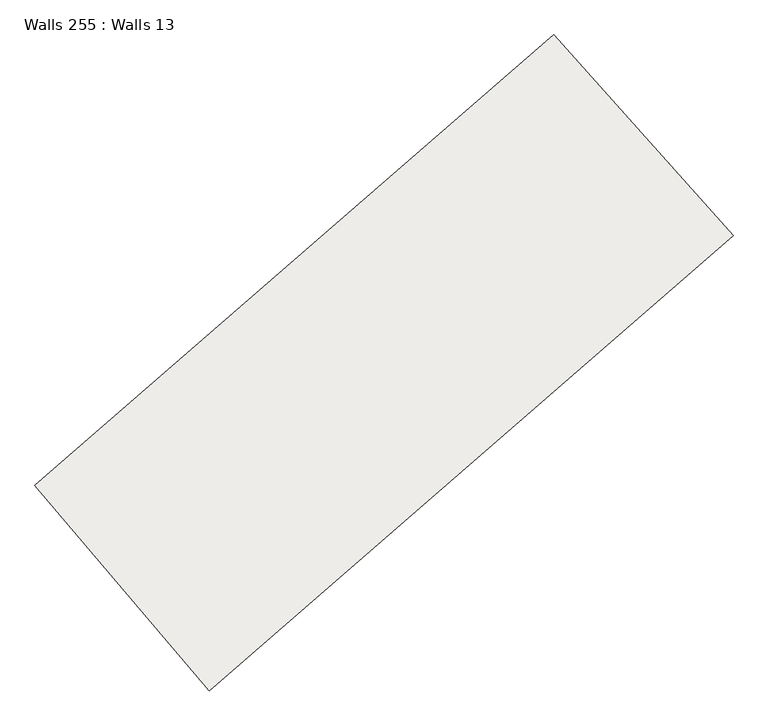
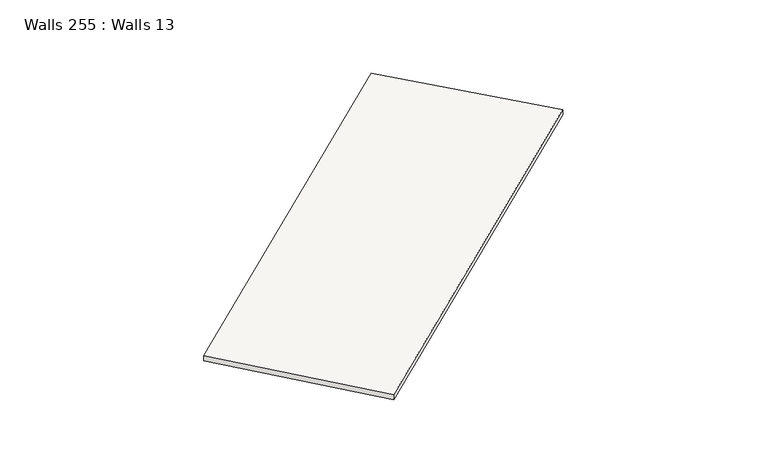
"""IFC4 building model written with IfcOpenShell, lengths in millimetres: slab geometry, Walls 255 : Walls 13."""

from ifc_helpers import new_model, si_unit, frame, origin, place, context, project, spatial, source, transform, mapped, element, save
from ifc_brep_helpers import plane_surface, spline_curve, spline_surface, advanced_brep


def walls_255_walls_13_3a6cb62a(model_context):
    return source(origin(), model_context, "Body", "AdvancedBrep", [
        advanced_brep(
        [(-252953.6049194, -410667.4858834, 634450.0), (-252953.6049194, -410667.4858834, 634550.0), (-250693.5123539, -413204.9610815, 634550.0), (-250693.5123539, -413204.9610815, 634450.0), (-259504.3942797, -416359.2288655, 634380.0), (-257305.1555162, -418951.9000099, 634380.0), (-257305.1555162, -418951.9000099, 634480.0), (-259504.3942797, -416359.2288655, 634480.0)],
        [
            (0, 1),
            (1, 2),
            (2, 3),
            (3, 0),
            (4, 5),
            (5, 6),
            (6, 7),
            (7, 4),
            (6, 2, spline_curve(3, [(-257305.1555162, -418951.9000099, 634480.0), (-255078.234805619, -417062.977568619, 634503.333333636), (-252874.139220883, -415147.144800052, 634526.666666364), (-250693.5123539, -413204.9610815, 634550.0)], [4, 4], [0.0, 28.60751878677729])),
            (1, 7, spline_curve(3, [(-252953.6049194, -410667.4858834, 634550.0), (-255114.175728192, -412591.031370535, 634526.666666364), (-257297.984811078, -414488.463614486, 634503.333333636), (-259504.3942797, -416359.2288655, 634480.0)], [4, 4], [0.0, 28.60751878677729])),
            (4, 0, spline_curve(3, [(-259504.3942797, -416359.2288655, 634380.0), (-257297.984811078, -414488.463614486, 634403.333333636), (-255114.175728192, -412591.031370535, 634426.666666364), (-252953.6049194, -410667.4858834, 634450.0)], [4, 4], [0.0, 28.60751878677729])),
            (3, 5, spline_curve(3, [(-250693.5123539, -413204.9610815, 634450.0), (-252874.139220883, -415147.144800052, 634426.666666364), (-255078.234805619, -417062.977568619, 634403.333333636), (-257305.1555162, -418951.9000099, 634380.0)], [4, 4], [0.0, 28.60751878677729])),
        ],
        [
            plane_surface(frame((-251823.5586367, -411936.2234824, 634500.0), z_axis=(0.7467427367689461, 0.6651129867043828, 0.0), x_axis=(0.0, 0.0, -1.0))),
            plane_surface(frame((-258404.774898, -417655.5644377, 634430.0), z_axis=(-0.7625966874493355, -0.646874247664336, 0.0), x_axis=(0.0, 0.0, 1.0))),
            spline_surface(3, 3, [[(-259504.3942797, -416359.2288655, 634480.0), (-257297.984811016, -414488.463614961, 634503.333333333), (-255114.175728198, -412591.031370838, 634526.666666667), (-252953.6049194, -410667.4858834, 634550.0)], [(-258771.314691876, -417223.45258028, 634480.0), (-256558.068142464, -415346.634932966, 634503.333333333), (-254367.496892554, -413443.06918063, 634526.666666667), (-252200.240730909, -411513.310949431, 634550.0)], [(-258038.235104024, -418087.67629512, 634480.0), (-255818.151473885, -416204.806251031, 634503.333333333), (-253620.818056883, -414295.106990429, 634526.666666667), (-251446.876542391, -412359.136015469, 634550.0)], [(-257305.1555162, -418951.9000099, 634480.0), (-255078.234805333, -417062.977569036, 634503.333333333), (-252874.13922124, -415147.144800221, 634526.666666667), (-250693.5123539, -413204.9610815, 634550.0)]], [4, 4], [4, 4], [0.0, 11.151331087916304], [0.0, 28.60751878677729]),
            spline_surface(3, 3, [[(-257305.1555162, -418951.9000099, 634380.0), (-255078.234805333, -417062.977569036, 634403.333333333), (-252874.13922124, -415147.144800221, 634426.666666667), (-250693.5123539, -413204.9610815, 634450.0)], [(-258038.235104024, -418087.67629512, 634380.0), (-255818.151473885, -416204.806251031, 634403.333333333), (-253620.818056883, -414295.106990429, 634426.666666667), (-251446.876542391, -412359.136015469, 634450.0)], [(-258771.314691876, -417223.45258028, 634380.0), (-256558.068142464, -415346.634932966, 634403.333333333), (-254367.496892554, -413443.06918063, 634426.666666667), (-252200.240730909, -411513.310949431, 634450.0)], [(-259504.3942797, -416359.2288655, 634380.0), (-257297.984811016, -414488.463614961, 634403.333333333), (-255114.175728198, -412591.031370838, 634426.666666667), (-252953.6049194, -410667.4858834, 634450.0)]], [4, 4], [4, 4], [0.0, 11.15133108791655], [0.0, 28.60751878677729]),
            spline_surface(3, 3, [[(-259504.3942797, -416359.2288655, 634380.0), (-257297.984811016, -414488.463614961, 634403.333333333), (-255114.175728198, -412591.031370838, 634426.666666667), (-252953.6049194, -410667.4858834, 634450.0)], [(-259504.3942797, -416359.2288655, 634413.333333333), (-257297.984811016, -414488.463614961, 634436.666666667), (-255114.175728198, -412591.031370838, 634460.0), (-252953.6049194, -410667.4858834, 634483.333333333)], [(-259504.3942797, -416359.2288655, 634446.666666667), (-257297.984811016, -414488.463614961, 634470.0), (-255114.175728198, -412591.031370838, 634493.333333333), (-252953.6049194, -410667.4858834, 634516.666666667)], [(-259504.3942797, -416359.2288655, 634480.0), (-257297.984811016, -414488.463614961, 634503.333333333), (-255114.175728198, -412591.031370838, 634526.666666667), (-252953.6049194, -410667.4858834, 634550.0)]], [4, 4], [4, 4], [0.0, 0.3280839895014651], [0.0, 28.472779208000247]),
            spline_surface(3, 3, [[(-257305.1555162, -418951.9000099, 634480.0), (-255078.234805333, -417062.977569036, 634503.333333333), (-252874.13922124, -415147.144800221, 634526.666666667), (-250693.5123539, -413204.9610815, 634550.0)], [(-257305.1555162, -418951.9000099, 634446.666666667), (-255078.234805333, -417062.977569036, 634470.0), (-252874.13922124, -415147.144800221, 634493.333333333), (-250693.5123539, -413204.9610815, 634516.666666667)], [(-257305.1555162, -418951.9000099, 634413.333333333), (-255078.234805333, -417062.977569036, 634436.666666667), (-252874.13922124, -415147.144800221, 634460.0), (-250693.5123539, -413204.9610815, 634483.333333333)], [(-257305.1555162, -418951.9000099, 634380.0), (-255078.234805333, -417062.977569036, 634403.333333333), (-252874.13922124, -415147.144800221, 634426.666666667), (-250693.5123539, -413204.9610815, 634450.0)]], [4, 4], [4, 4], [0.0, 0.3280839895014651], [0.0, 28.742258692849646]),
        ],
        [
            (0, [[1, 2, 3, 4]]),
            (1, [[5, 6, 7, 8]]),
            (2, [[-7, 9, -2, 10]]),
            (3, [[-5, 11, -4, 12]]),
            (4, [[-8, -10, -1, -11]]),
            (5, [[-6, -12, -3, -9]]),
        ],
    ),
    ])


if __name__ == "__main__":
    model = new_model("IFC4")
    model_context = context("Model", 3, world=origin())
    ifc_project = project(units=[si_unit("LENGTHUNIT", "METRE", prefix="MILLI")], contexts=[model_context])
    site = spatial("IfcSite", under=ifc_project)
    building = spatial("IfcBuilding", under=site)
    placement = place(None, origin())
    walls_255_walls_13_shape = walls_255_walls_13_3a6cb62a(model_context)
    element("IfcSlab", 1, ObjectType="Walls 255 : Walls 13", at=placement, inside=building, context=model_context, shape_type="MappedRepresentation", body=[
        mapped(walls_255_walls_13_shape, transform((0.0, 0.0, 0.0), x_axis=(1.0, 0.0, 0.0), y_axis=(0.0, 1.0, 0.0), z_axis=(0.0, 0.0, 1.0))),
    ])
    save(model, "model.ifc")
